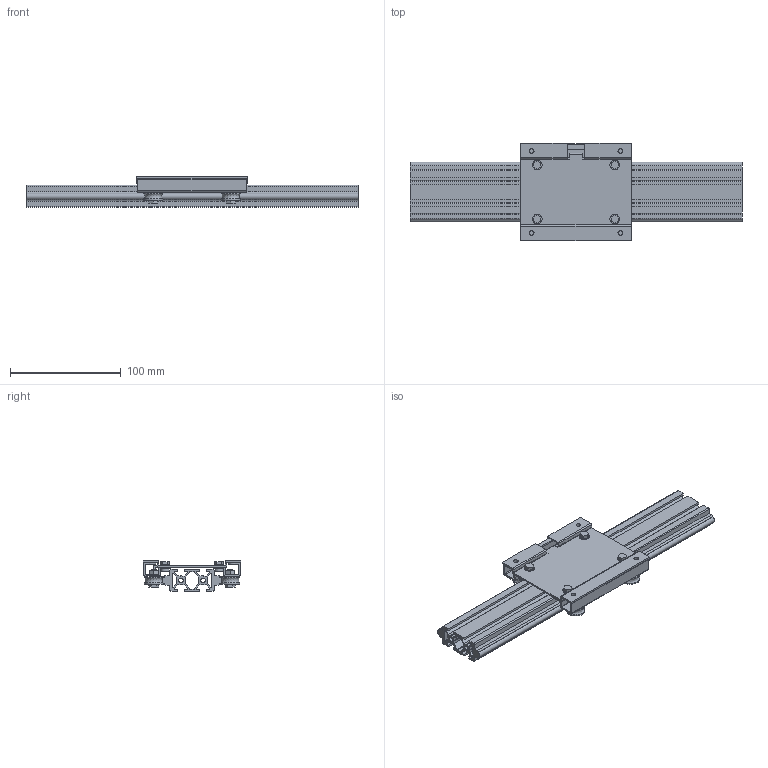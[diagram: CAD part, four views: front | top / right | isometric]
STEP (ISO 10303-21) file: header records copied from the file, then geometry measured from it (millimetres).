
FILE_DESCRIPTION((''),'2;1');
FILE_NAME('C:\Documents and Settings\土屋\My Documents\土屋移動用フォルダ\製品 (図面)\LSダウンロード用図面\新型キャリッジ\step形式(ダウンロード用)\LS4020AW.stp','2017-08-23T11:39:37',('y'),(''),'Autodesk Inventor 11','Autodesk Inventor 11','');
FILE_SCHEMA(('AUTOMOTIVE_DESIGN { 1 0 10303 214 1 1 1 1 }'));
Length unit declared in the file: millimetre
Products named in the file (3): LS4020AW; LS4020AWレール; LS4020AWキャリッジ
Assembly tree (2 placements, depth 2):
  LS4020AW
    LS4020AWレール
    LS4020AWキャリッジ
Bounding box: 300 x 88 x 28 mm (x, y, z)
Volume: 171546.2 mm3; surface area: 143570.3 mm2
Topology: 6 solids, 6 shells, 475 faces, 1200 edges, 762 vertices
Faces by surface type: plane 321, cylinder 82, cone 60, bspline 12
Full cylindrical faces by diameter (mm): 4.2 x2, 5 x4, 7.9 x4, 8.5 x8, 8.7 x8, 17 x8
Entity records: 14104 total; most frequent: CARTESIAN_POINT 3000, DIRECTION 2254, ORIENTED_EDGE 2252, EDGE_CURVE 1126, AXIS2_PLACEMENT_3D 756, VERTEX_POINT 746, VECTOR 742, LINE 742
